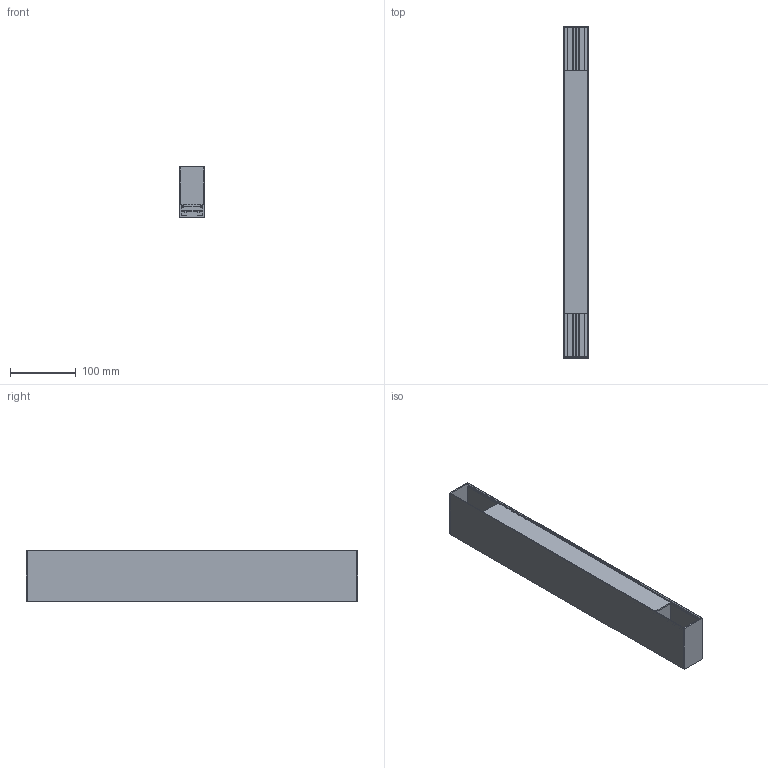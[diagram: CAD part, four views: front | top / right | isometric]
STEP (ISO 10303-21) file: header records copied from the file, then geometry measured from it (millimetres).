
FILE_DESCRIPTION(/* description */ (''),/* implementation_level */ '2;1');
FILE_NAME(/* name */ 'C:\Users\Franco Sartori E\Documents\FARO\DUPLICADO\Modelos\01_Digitalizados\PRIORIZACION 2D\1_NESO\03_Publicación\5020210002, 5020210002D_driver_NESO_T - Vista 3D - Export.stp',/* time_stamp */ '2021-01-21T11:18:16+01:00',/* author */ ('Franco Sartori E'),/* organization */ (''),/* preprocessor_version */ 'ST-DEVELOPER v18.1',/* originating_system */ 'AutoCAD Mechanical',/* authorisation */ '');
FILE_SCHEMA (('AUTOMOTIVE_DESIGN { 1 0 10303 214 3 1 1 }'));
Length unit declared in the file: millimetre
Products named in the file (2): Product; 5020210002_ 5020210002D - LAMP-508773-Export
Assembly tree (1 placements, depth 2):
  Product
    5020210002_ 5020210002D - LAMP-508773-Export
Bounding box: 39.4 x 504 x 76 mm (x, y, z)
Volume: 326221.5 mm3; surface area: 306615.8 mm2
Topology: 7 solids, 7 shells, 121 faces, 321 edges, 214 vertices
Faces by surface type: plane 119, cylinder 2
Entity records: 3723 total; most frequent: CARTESIAN_POINT 659, ORIENTED_EDGE 642, DIRECTION 573, EDGE_CURVE 321, LINE 317, VECTOR 317, VERTEX_POINT 214, AXIS2_PLACEMENT_3D 128
